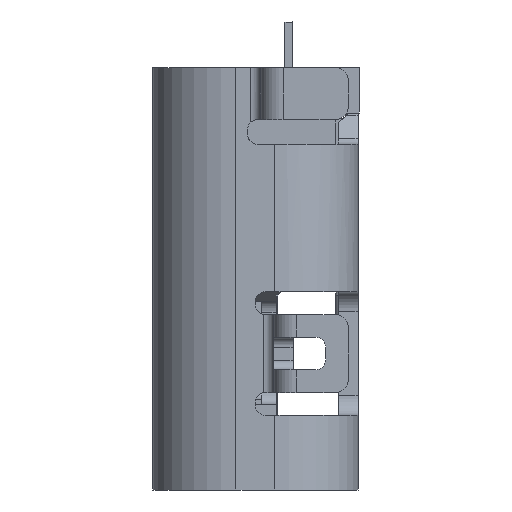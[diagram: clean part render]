
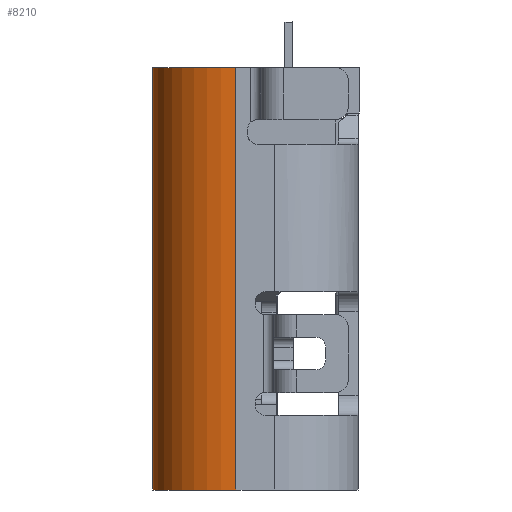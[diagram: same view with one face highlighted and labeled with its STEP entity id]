
A CAD part, left-side view. The second image highlights one B-rep face of the part: STEP entity #8210.
In plain terms, the highlighted cylindrical face has radius 1.28 mm (diameter 2.56 mm), a partial arc.
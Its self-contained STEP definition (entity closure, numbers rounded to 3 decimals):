
#1327 = FACE_OUTER_BOUND ( 'NONE', #27204, .T. ) ;
#1396 = CARTESIAN_POINT ( 'NONE',  ( -4.47, 0.295, -4.208 ) ) ;
#1767 = CIRCLE ( 'NONE', #14240, 1.28 ) ;
#3920 = CARTESIAN_POINT ( 'NONE',  ( -3.19, 0.295, -9.208 ) ) ;
#5307 = VERTEX_POINT ( 'NONE', #34998 ) ;
#5348 = ORIENTED_EDGE ( 'NONE', *, *, #29467, .T. ) ;
#6565 = EDGE_CURVE ( 'NONE', #29265, #23339, #1767, .T. ) ;
#6675 = LINE ( 'NONE', #23481, #22958 ) ;
#7832 = AXIS2_PLACEMENT_3D ( 'NONE', #3920, #12703, #23524 ) ;
#8155 = AXIS2_PLACEMENT_3D ( 'NONE', #21475, #10274, #35656 ) ;
#8210 = ADVANCED_FACE ( 'NONE', ( #1327 ), #10086, .T. ) ;
#10086 = CYLINDRICAL_SURFACE ( 'NONE', #7832, 1.28 ) ;
#10274 = DIRECTION ( 'NONE',  ( 0., 0., 1. ) ) ;
#12313 = CIRCLE ( 'NONE', #8155, 1.28 ) ;
#12703 = DIRECTION ( 'NONE',  ( 0., 0., -1. ) ) ;
#12943 = CARTESIAN_POINT ( 'NONE',  ( -3.19, 1.575, -10.708 ) ) ;
#13766 = LINE ( 'NONE', #22344, #17104 ) ;
#14240 = AXIS2_PLACEMENT_3D ( 'NONE', #15971, #27160, #18946 ) ;
#15136 = CARTESIAN_POINT ( 'NONE',  ( -4.47, 0.295, -10.708 ) ) ;
#15789 = ORIENTED_EDGE ( 'NONE', *, *, #21221, .T. ) ;
#15971 = CARTESIAN_POINT ( 'NONE',  ( -3.19, 0.295, -10.708 ) ) ;
#16196 = VERTEX_POINT ( 'NONE', #1396 ) ;
#17104 = VECTOR ( 'NONE', #25145, 1000. ) ;
#18946 = DIRECTION ( 'NONE',  ( -1., 0., 0. ) ) ;
#20771 = EDGE_CURVE ( 'NONE', #5307, #16196, #12313, .T. ) ;
#21052 = DIRECTION ( 'NONE',  ( 0., 0., -1. ) ) ;
#21221 = EDGE_CURVE ( 'NONE', #29265, #16196, #13766, .T. ) ;
#21475 = CARTESIAN_POINT ( 'NONE',  ( -3.19, 0.295, -4.208 ) ) ;
#22344 = CARTESIAN_POINT ( 'NONE',  ( -4.47, 0.295, -10.708 ) ) ;
#22958 = VECTOR ( 'NONE', #21052, 1000. ) ;
#23339 = VERTEX_POINT ( 'NONE', #12943 ) ;
#23481 = CARTESIAN_POINT ( 'NONE',  ( -3.19, 1.575, -4.208 ) ) ;
#23524 = DIRECTION ( 'NONE',  ( -1., 0., 0. ) ) ;
#25145 = DIRECTION ( 'NONE',  ( 0., 0., 1. ) ) ;
#26517 = ORIENTED_EDGE ( 'NONE', *, *, #20771, .F. ) ;
#27160 = DIRECTION ( 'NONE',  ( 0., 0., -1. ) ) ;
#27204 = EDGE_LOOP ( 'NONE', ( #26517, #5348, #32563, #15789 ) ) ;
#29265 = VERTEX_POINT ( 'NONE', #15136 ) ;
#29467 = EDGE_CURVE ( 'NONE', #5307, #23339, #6675, .T. ) ;
#32563 = ORIENTED_EDGE ( 'NONE', *, *, #6565, .F. ) ;
#34998 = CARTESIAN_POINT ( 'NONE',  ( -3.19, 1.575, -4.208 ) ) ;
#35656 = DIRECTION ( 'NONE',  ( 0., 1., 0. ) ) ;
